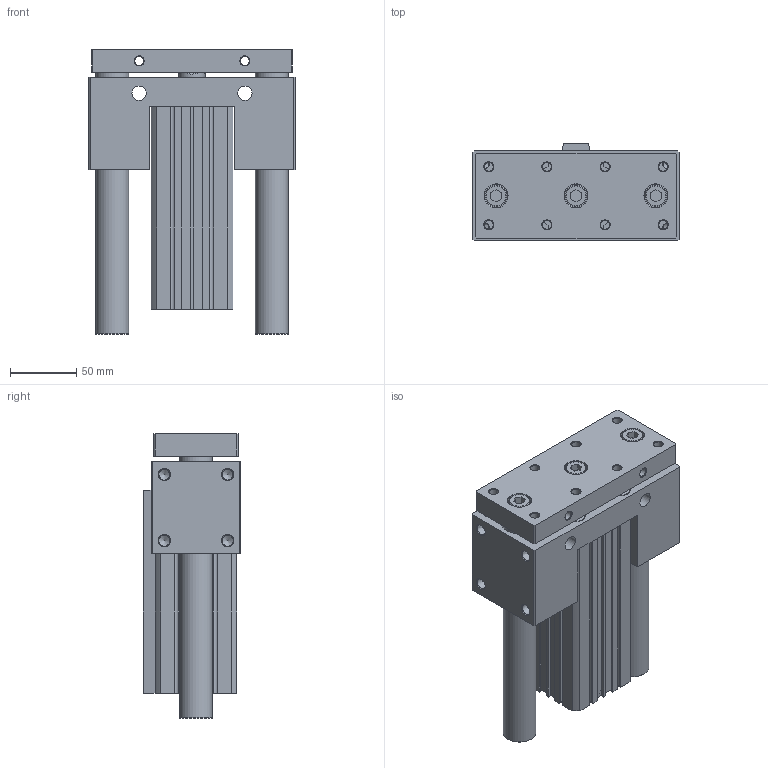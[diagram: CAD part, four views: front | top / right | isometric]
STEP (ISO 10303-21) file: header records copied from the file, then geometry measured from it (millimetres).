
FILE_DESCRIPTION((''),'2;1');
FILE_NAME('I:\3D電子目錄\氣缸\JCB\JCB\JCB50\JCB50x125.stp','2007-08-30T16:27:39',('Administrator'),(''),'Autodesk Inventor 11','Autodesk Inventor 11','');
FILE_SCHEMA(('AUTOMOTIVE_DESIGN { 1 0 10303 214 1 1 1 1 }'));
Length unit declared in the file: millimetre
Products named in the file (1): JCB50
Bounding box: 156 x 74 x 215.5 mm (x, y, z)
Volume: 1303953.9 mm3; surface area: 222824.8 mm2
Topology: 3 solids, 3 shells, 328 faces, 786 edges, 510 vertices
Faces by surface type: plane 190, cylinder 58, cone 45, bspline 31, torus 4
Full cylindrical faces by diameter (mm): 2.7 x2, 6.8 x4, 8.376 x4, 11 x8, 13 x4, 14 x4, 16 x3, 17.5 x3, 20 x1, 21 x1, 25 x2, 28 x2, 37 x1, 38 x1, 52 x4, 55 x2
Entity records: 9390 total; most frequent: CARTESIAN_POINT 2294, DIRECTION 1434, ORIENTED_EDGE 1264, EDGE_CURVE 632, EDGE_LOOP 536, AXIS2_PLACEMENT_3D 512, VERTEX_POINT 480, VECTOR 410
